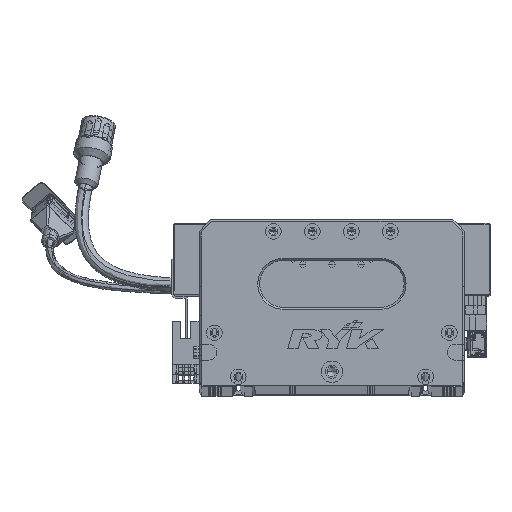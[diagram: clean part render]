
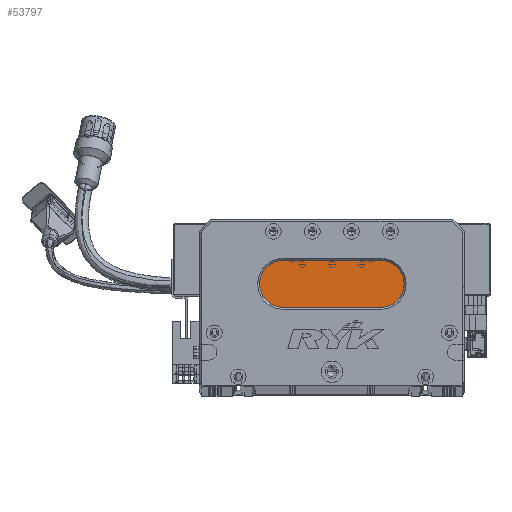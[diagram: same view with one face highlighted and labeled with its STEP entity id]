
A CAD part, top view. The second image highlights one B-rep face of the part: STEP entity #53797.
In plain terms, the highlighted planar face has unit normal (0, 0, 1) as drawn and (0, 0, -1) by its records, which use the part's own axes.
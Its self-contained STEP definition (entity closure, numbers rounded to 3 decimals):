
#2988 = CARTESIAN_POINT ( 'NONE',  ( 43., 40., 13. ) ) ;
#3151 = PLANE ( 'NONE',  #104637 ) ;
#3264 = DIRECTION ( 'NONE',  ( -1., 0., 0. ) ) ;
#5819 = ORIENTED_EDGE ( 'NONE', *, *, #79434, .T. ) ;
#6535 = AXIS2_PLACEMENT_3D ( 'NONE', #56735, #24310, #110979 ) ;
#7869 = CARTESIAN_POINT ( 'NONE',  ( 93., 64., 13. ) ) ;
#19888 = DIRECTION ( 'NONE',  ( -1., 0., 0. ) ) ;
#20161 = ORIENTED_EDGE ( 'NONE', *, *, #97494, .T. ) ;
#20604 = LINE ( 'NONE', #7869, #139935 ) ;
#21353 = CARTESIAN_POINT ( 'NONE',  ( 43., 64., 13. ) ) ;
#23592 = CARTESIAN_POINT ( 'NONE',  ( 93., 64., 13. ) ) ;
#24310 = DIRECTION ( 'NONE',  ( 0., 0., -1. ) ) ;
#25366 = AXIS2_PLACEMENT_3D ( 'NONE', #123340, #101863, #3264 ) ;
#37740 = VERTEX_POINT ( 'NONE', #23592 ) ;
#47933 = VERTEX_POINT ( 'NONE', #98712 ) ;
#49821 = LINE ( 'NONE', #72045, #56660 ) ;
#51581 = CIRCLE ( 'NONE', #25366, 12. ) ;
#53797 = ADVANCED_FACE ( 'NONE', ( #70906 ), #3151, .T. ) ;
#56660 = VECTOR ( 'NONE', #94351, 1000. ) ;
#56735 = CARTESIAN_POINT ( 'NONE',  ( 43., 52., 13. ) ) ;
#60881 = CIRCLE ( 'NONE', #6535, 12. ) ;
#66758 = VERTEX_POINT ( 'NONE', #76138 ) ;
#70464 = VERTEX_POINT ( 'NONE', #2988 ) ;
#70906 = FACE_OUTER_BOUND ( 'NONE', #119250, .T. ) ;
#72045 = CARTESIAN_POINT ( 'NONE',  ( 93., 40., 13. ) ) ;
#74216 = CIRCLE ( 'NONE', #128980, 12. ) ;
#76138 = CARTESIAN_POINT ( 'NONE',  ( 93., 40., 13. ) ) ;
#79434 = EDGE_CURVE ( 'NONE', #37740, #66758, #51581, .T. ) ;
#79467 = CARTESIAN_POINT ( 'NONE',  ( 93., 52., 13. ) ) ;
#79927 = VERTEX_POINT ( 'NONE', #21353 ) ;
#89472 = DIRECTION ( 'NONE',  ( -1., 0., 0. ) ) ;
#94351 = DIRECTION ( 'NONE',  ( -1., 0., 0. ) ) ;
#96557 = CARTESIAN_POINT ( 'NONE',  ( 43., 52., 13. ) ) ;
#97494 = EDGE_CURVE ( 'NONE', #66758, #70464, #49821, .T. ) ;
#98712 = CARTESIAN_POINT ( 'NONE',  ( 31., 52., 13. ) ) ;
#101750 = DIRECTION ( 'NONE',  ( 0., 0., -1. ) ) ;
#101863 = DIRECTION ( 'NONE',  ( 0., 0., -1. ) ) ;
#104637 = AXIS2_PLACEMENT_3D ( 'NONE', #79467, #101750, #89472 ) ;
#109437 = ORIENTED_EDGE ( 'NONE', *, *, #129637, .T. ) ;
#110575 = EDGE_CURVE ( 'NONE', #79927, #37740, #20604, .T. ) ;
#110979 = DIRECTION ( 'NONE',  ( -1., 0., 0. ) ) ;
#117758 = EDGE_CURVE ( 'NONE', #47933, #79927, #60881, .T. ) ;
#118419 = DIRECTION ( 'NONE',  ( 1., 0., 0. ) ) ;
#119250 = EDGE_LOOP ( 'NONE', ( #5819, #20161, #109437, #119705, #120811 ) ) ;
#119705 = ORIENTED_EDGE ( 'NONE', *, *, #117758, .T. ) ;
#120811 = ORIENTED_EDGE ( 'NONE', *, *, #110575, .T. ) ;
#123340 = CARTESIAN_POINT ( 'NONE',  ( 93., 52., 13. ) ) ;
#128487 = DIRECTION ( 'NONE',  ( 0., 0., -1. ) ) ;
#128980 = AXIS2_PLACEMENT_3D ( 'NONE', #96557, #128487, #19888 ) ;
#129637 = EDGE_CURVE ( 'NONE', #70464, #47933, #74216, .T. ) ;
#139935 = VECTOR ( 'NONE', #118419, 1000. ) ;
